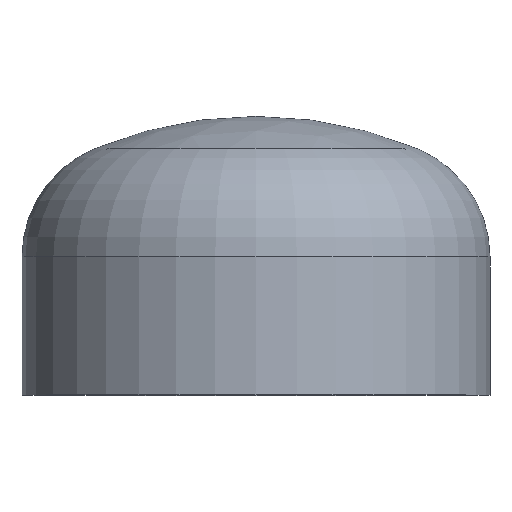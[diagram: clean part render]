
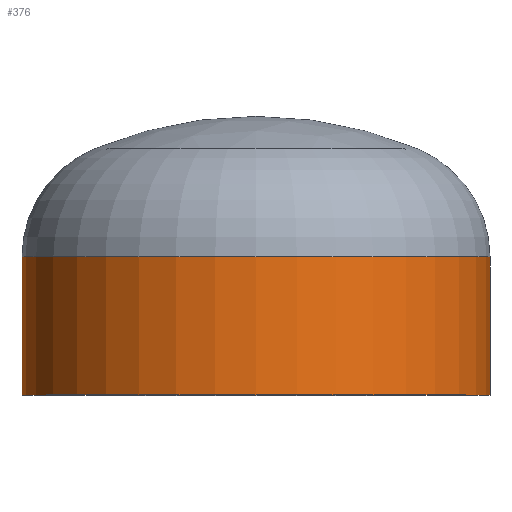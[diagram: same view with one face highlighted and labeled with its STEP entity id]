
A CAD part, top view. The second image highlights one B-rep face of the part: STEP entity #376.
In plain terms, the highlighted cylindrical face has radius 254 mm (diameter 508 mm), a partial arc.
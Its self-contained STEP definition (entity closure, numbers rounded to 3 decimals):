
#33 = VERTEX_POINT ( 'NONE', #281 ) ;
#36 = EDGE_LOOP ( 'NONE', ( #98, #84, #173, #69 ) ) ;
#58 = EDGE_CURVE ( 'NONE', #88, #133, #159, .T. ) ;
#69 = ORIENTED_EDGE ( 'NONE', *, *, #409, .F. ) ;
#75 = DIRECTION ( 'NONE',  ( 1., 0., 0. ) ) ;
#84 = ORIENTED_EDGE ( 'NONE', *, *, #58, .T. ) ;
#86 = VERTEX_POINT ( 'NONE', #242 ) ;
#88 = VERTEX_POINT ( 'NONE', #231 ) ;
#98 = ORIENTED_EDGE ( 'NONE', *, *, #191, .T. ) ;
#120 = VECTOR ( 'NONE', #246, 1000. ) ;
#122 = DIRECTION ( 'NONE',  ( 0., -1., 0. ) ) ;
#133 = VERTEX_POINT ( 'NONE', #230 ) ;
#141 = LINE ( 'NONE', #408, #344 ) ;
#144 = AXIS2_PLACEMENT_3D ( 'NONE', #288, #287, #226 ) ;
#152 = CARTESIAN_POINT ( 'NONE',  ( 0., 0., 0. ) ) ;
#159 = LINE ( 'NONE', #277, #120 ) ;
#173 = ORIENTED_EDGE ( 'NONE', *, *, #406, .F. ) ;
#191 = EDGE_CURVE ( 'NONE', #86, #88, #283, .T. ) ;
#218 = CARTESIAN_POINT ( 'NONE',  ( 0., 0., 0. ) ) ;
#225 = CIRCLE ( 'NONE', #331, 254. ) ;
#226 = DIRECTION ( 'NONE',  ( 1., 0., 0. ) ) ;
#230 = CARTESIAN_POINT ( 'NONE',  ( -254., 0., 0. ) ) ;
#231 = CARTESIAN_POINT ( 'NONE',  ( -254., 150., 0. ) ) ;
#242 = CARTESIAN_POINT ( 'NONE',  ( 254., 150., 0. ) ) ;
#245 = DIRECTION ( 'NONE',  ( 1., 0., 0. ) ) ;
#246 = DIRECTION ( 'NONE',  ( 0., -1., 0. ) ) ;
#277 = CARTESIAN_POINT ( 'NONE',  ( -254., 0., 0. ) ) ;
#281 = CARTESIAN_POINT ( 'NONE',  ( 254., 0., 0. ) ) ;
#283 = CIRCLE ( 'NONE', #144, 254. ) ;
#287 = DIRECTION ( 'NONE',  ( 0., -1., 0. ) ) ;
#288 = CARTESIAN_POINT ( 'NONE',  ( 0., 150., 0. ) ) ;
#319 = AXIS2_PLACEMENT_3D ( 'NONE', #152, #122, #75 ) ;
#331 = AXIS2_PLACEMENT_3D ( 'NONE', #218, #387, #245 ) ;
#344 = VECTOR ( 'NONE', #403, 1000. ) ;
#350 = CYLINDRICAL_SURFACE ( 'NONE', #319, 254. ) ;
#358 = FACE_OUTER_BOUND ( 'NONE', #36, .T. ) ;
#376 = ADVANCED_FACE ( 'NONE', ( #358 ), #350, .T. ) ;
#387 = DIRECTION ( 'NONE',  ( 0., -1., 0. ) ) ;
#403 = DIRECTION ( 'NONE',  ( 0., -1., 0. ) ) ;
#406 = EDGE_CURVE ( 'NONE', #33, #133, #225, .T. ) ;
#408 = CARTESIAN_POINT ( 'NONE',  ( 254., 0., 0. ) ) ;
#409 = EDGE_CURVE ( 'NONE', #86, #33, #141, .T. ) ;
